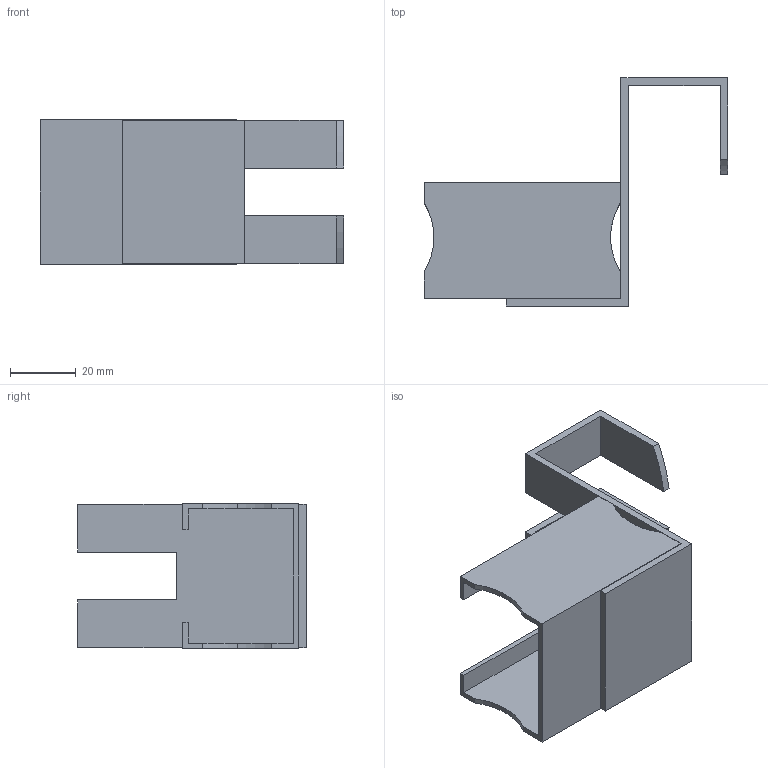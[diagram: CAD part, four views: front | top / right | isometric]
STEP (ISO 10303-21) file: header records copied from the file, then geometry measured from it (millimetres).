
FILE_DESCRIPTION (( 'STEP AP214' ), '1' );
FILE_NAME ('JB-507.step', '2023-12-26T01:20:34', ( 'catia' ), ( 'HP Inc.' ), 'SwSTEP 2.0', 'SolidWorks 2021', '' );
FILE_SCHEMA (( 'AUTOMOTIVE_DESIGN' ));
Length unit declared in the file: millimetre
Products named in the file (1): JB-507
Bounding box: 92.6 x 69.6 x 44.2 mm (x, y, z)
Volume: 24910.9 mm3; surface area: 24815 mm2
Topology: 1 solids, 1 shells, 46 faces, 130 edges, 86 vertices
Faces by surface type: plane 38, cylinder 8
Entity records: 1508 total; most frequent: CARTESIAN_POINT 263, ORIENTED_EDGE 260, DIRECTION 240, EDGE_CURVE 130, VECTOR 114, LINE 114, VERTEX_POINT 86, AXIS2_PLACEMENT_3D 63
